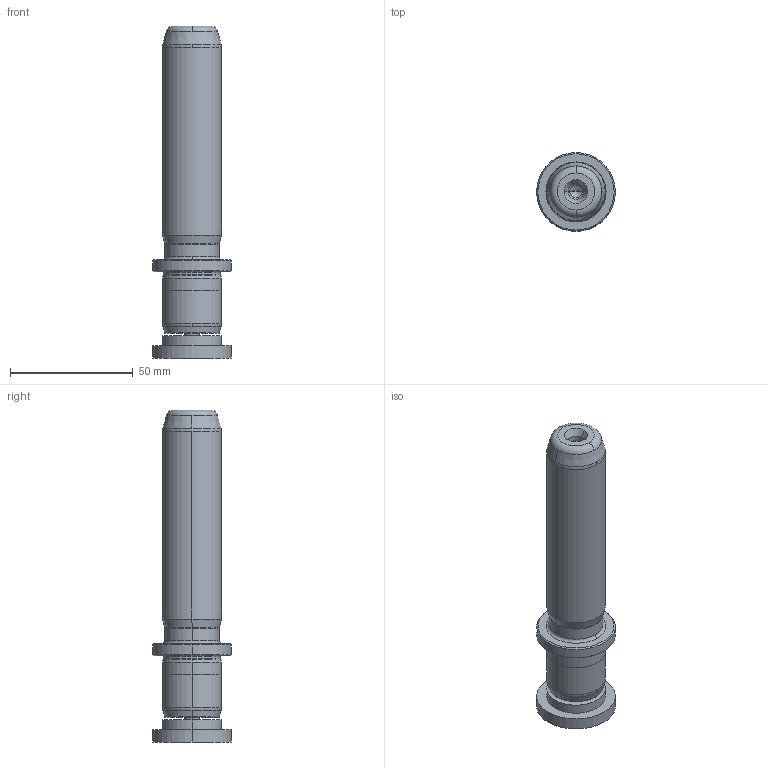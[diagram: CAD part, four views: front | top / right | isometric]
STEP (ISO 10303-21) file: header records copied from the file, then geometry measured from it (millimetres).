
FILE_DESCRIPTION((''),'2;1');
FILE_NAME('P22_024_100.stp','2009-02-02T15:29:12',(''),(''),'Mechanical Desktop 2009','Mechanical Desktop 2009',', , ');
FILE_SCHEMA(('CONFIG_CONTROL_DESIGN'));
Length unit declared in the file: millimetre
Products named in the file (2): Product; blmdl1
Assembly tree (1 placements, depth 2):
  Product
    blmdl1
Bounding box: 32 x 32 x 135 mm (x, y, z)
Volume: 61697 mm3; surface area: 14760.8 mm2
Topology: 3 solids, 3 shells, 99 faces, 237 edges, 149 vertices
Faces by surface type: cylinder 32, cone 28, plane 19, torus 10, bspline 10
Entity records: 3419 total; most frequent: CARTESIAN_POINT 923, DIRECTION 570, ORIENTED_EDGE 466, AXIS2_PLACEMENT_3D 246, EDGE_CURVE 233, CIRCLE 155, VERTEX_POINT 149, EDGE_LOOP 110
